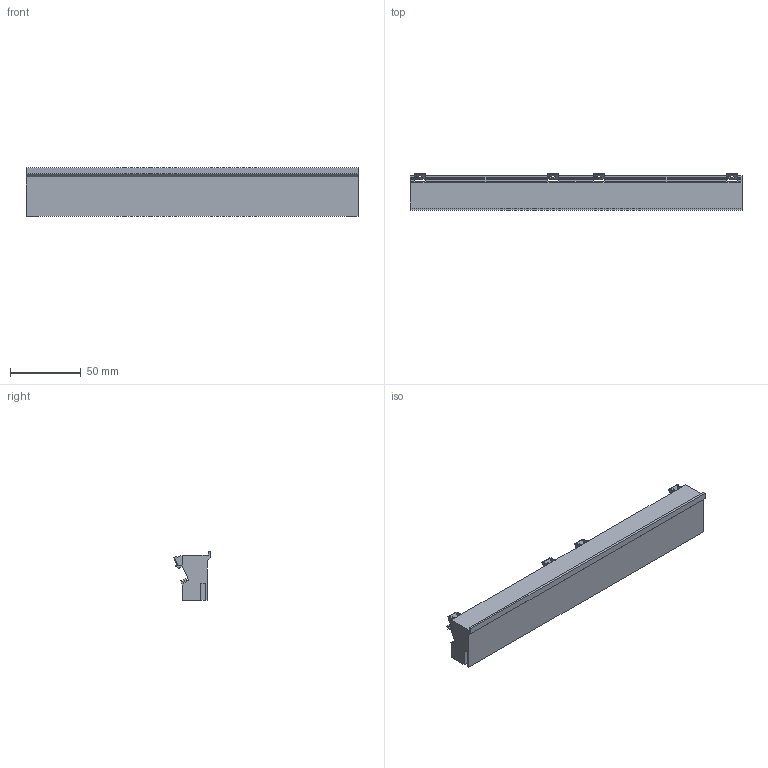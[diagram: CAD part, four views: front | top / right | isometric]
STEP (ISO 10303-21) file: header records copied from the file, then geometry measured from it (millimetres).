
FILE_DESCRIPTION(('Open CASCADE Model'),'2;1');
FILE_NAME('SOLID','2026-10-21T18:57:10',('Author'),('Open CASCADE'), 'Open CASCADE STEP processor 8.0','build123d','Unknown');
FILE_SCHEMA(('AUTOMOTIVE_DESIGN { 1 0 10303 214 1 1 1 1 }'));
Products named in the file (1): SOLID
Bounding box: 234 x 25.92 x 34.5 mm (x, y, z)
Volume: 128425 mm3; surface area: 31312.5 mm2
Topology: 1 solids, 1 shells, 612 faces, 1734 edges, 1112 vertices
Faces by surface type: plane 335, cylinder 276, bspline 1
Entity records: 46931 total; most frequent: CARTESIAN_POINT 13928, DIRECTION 5881, ORIENTED_EDGE 3468, PCURVE 3468, DEFINITIONAL_REPRESENTATION 3468, LINE 2648, VECTOR 2648, EDGE_CURVE 1734
